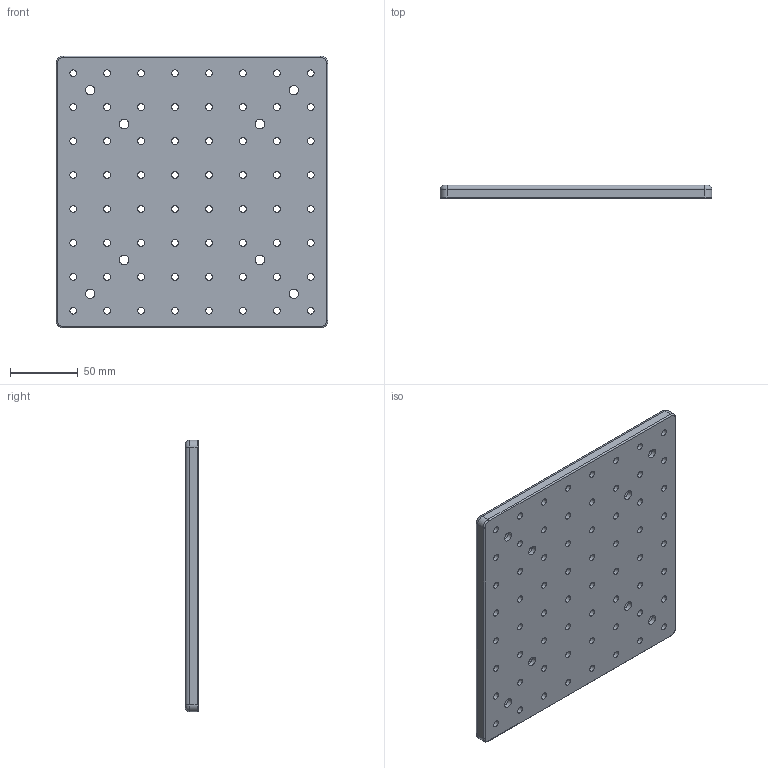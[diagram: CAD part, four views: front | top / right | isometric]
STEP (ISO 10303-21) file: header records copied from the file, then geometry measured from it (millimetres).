
FILE_DESCRIPTION (( 'STEP AP203' ), '1' );
FILE_NAME ('M-SAB-2020-10P.step', '2017-01-10T01:17:35', ( '¦K¬P' ), ( '' ), 'SwSTEP 2.0', 'SolidWorks 2012', '' );
FILE_SCHEMA (( 'CONFIG_CONTROL_DESIGN' ));
Length unit declared in the file: millimetre
Products named in the file (1): M-SAB-2020-10P
Bounding box: 200 x 9.8 x 200 mm (x, y, z)
Volume: 371872.2 mm3; surface area: 95440.3 mm2
Topology: 1 solids, 1 shells, 114 faces, 296 edges, 192 vertices
Faces by surface type: cylinder 92, plane 14, torus 8
Full cylindrical faces by diameter (mm): 5 x64, 7 x8, 11 x8
Entity records: 3549 total; most frequent: DIRECTION 638, CARTESIAN_POINT 523, ORIENTED_EDGE 432, EDGE_LOOP 346, AXIS2_PLACEMENT_3D 307, EDGE_CURVE 216, FACE_OUTER_BOUND 194, VERTEX_POINT 192
